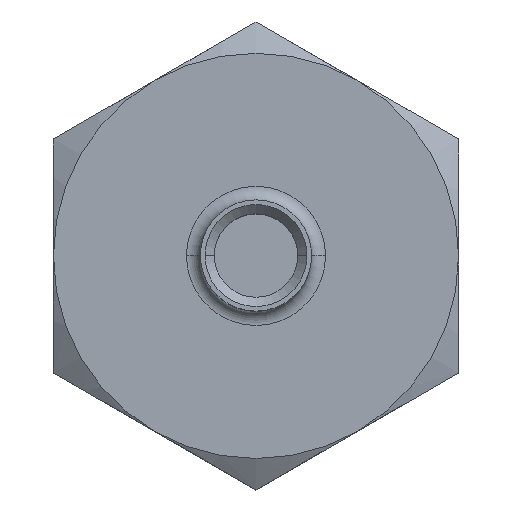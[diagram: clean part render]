
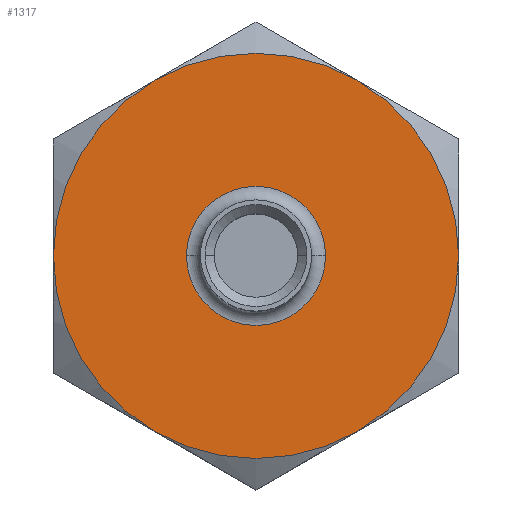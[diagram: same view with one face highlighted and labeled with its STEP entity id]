
A CAD part, top view. The second image highlights one B-rep face of the part: STEP entity #1317.
In plain terms, the highlighted planar face has unit normal (0, 0, 1).
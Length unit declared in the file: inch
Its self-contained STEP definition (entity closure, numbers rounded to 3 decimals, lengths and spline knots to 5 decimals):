
#34 = AXIS2_PLACEMENT_3D ( 'NONE', #1390, #1668, #258 ) ;
#45 = CIRCLE ( 'NONE', #1703, 0.2185 ) ;
#101 = CARTESIAN_POINT ( 'NONE',  ( 0., 0., -0.25 ) ) ;
#108 = DIRECTION ( 'NONE',  ( 1., 0., 0. ) ) ;
#174 = AXIS2_PLACEMENT_3D ( 'NONE', #101, #1860, #108 ) ;
#229 = CARTESIAN_POINT ( 'NONE',  ( -0.10925, 0.18923, -0.25 ) ) ;
#258 = DIRECTION ( 'NONE',  ( 1., 0., 0. ) ) ;
#271 = CARTESIAN_POINT ( 'NONE',  ( 0., 0., -0.25 ) ) ;
#297 = CARTESIAN_POINT ( 'NONE',  ( -0.2185, 0., -0.25 ) ) ;
#312 = AXIS2_PLACEMENT_3D ( 'NONE', #271, #2056, #2940 ) ;
#378 = ORIENTED_EDGE ( 'NONE', *, *, #410, .T. ) ;
#410 = EDGE_CURVE ( 'NONE', #896, #1927, #3319, .T. ) ;
#484 = FACE_BOUND ( 'NONE', #2782, .T. ) ;
#546 = ORIENTED_EDGE ( 'NONE', *, *, #1694, .F. ) ;
#654 = ORIENTED_EDGE ( 'NONE', *, *, #1463, .T. ) ;
#664 = EDGE_CURVE ( 'NONE', #1856, #3780, #3566, .T. ) ;
#709 = AXIS2_PLACEMENT_3D ( 'NONE', #2252, #2543, #1363 ) ;
#745 = EDGE_CURVE ( 'NONE', #3155, #1330, #45, .T. ) ;
#813 = DIRECTION ( 'NONE',  ( 1., 0., 0. ) ) ;
#819 = CIRCLE ( 'NONE', #1121, 0.2185 ) ;
#896 = VERTEX_POINT ( 'NONE', #1855 ) ;
#913 = AXIS2_PLACEMENT_3D ( 'NONE', #3217, #3501, #3184 ) ;
#940 = DIRECTION ( 'NONE',  ( 0., 0., 1. ) ) ;
#1029 = CIRCLE ( 'NONE', #312, 0.2185 ) ;
#1121 = AXIS2_PLACEMENT_3D ( 'NONE', #1457, #1206, #2652 ) ;
#1206 = DIRECTION ( 'NONE',  ( 0., 0., 1. ) ) ;
#1230 = AXIS2_PLACEMENT_3D ( 'NONE', #3353, #3092, #3081 ) ;
#1269 = AXIS2_PLACEMENT_3D ( 'NONE', #2195, #3122, #1618 ) ;
#1317 = ADVANCED_FACE ( 'NONE', ( #484, #2624 ), #2311, .F. ) ;
#1330 = VERTEX_POINT ( 'NONE', #3203 ) ;
#1363 = DIRECTION ( 'NONE',  ( 1., 0., 0. ) ) ;
#1382 = ORIENTED_EDGE ( 'NONE', *, *, #664, .F. ) ;
#1390 = CARTESIAN_POINT ( 'NONE',  ( 0., 0., -0.25 ) ) ;
#1405 = CIRCLE ( 'NONE', #709, 0.2185 ) ;
#1430 = CARTESIAN_POINT ( 'NONE',  ( 0.075, 0., -0.25 ) ) ;
#1457 = CARTESIAN_POINT ( 'NONE',  ( 0., 0., -0.25 ) ) ;
#1463 = EDGE_CURVE ( 'NONE', #1330, #896, #3238, .T. ) ;
#1602 = VERTEX_POINT ( 'NONE', #3085 ) ;
#1618 = DIRECTION ( 'NONE',  ( 1., 0., 0. ) ) ;
#1668 = DIRECTION ( 'NONE',  ( 0., 0., 1. ) ) ;
#1680 = CIRCLE ( 'NONE', #34, 0.075 ) ;
#1694 = EDGE_CURVE ( 'NONE', #3780, #1856, #1680, .T. ) ;
#1703 = AXIS2_PLACEMENT_3D ( 'NONE', #2719, #940, #813 ) ;
#1762 = CARTESIAN_POINT ( 'NONE',  ( -0.075, 0., -0.25 ) ) ;
#1792 = ORIENTED_EDGE ( 'NONE', *, *, #2344, .T. ) ;
#1814 = EDGE_CURVE ( 'NONE', #2033, #1602, #1029, .T. ) ;
#1837 = ORIENTED_EDGE ( 'NONE', *, *, #1814, .T. ) ;
#1855 = CARTESIAN_POINT ( 'NONE',  ( 0.10925, 0.18923, -0.25 ) ) ;
#1856 = VERTEX_POINT ( 'NONE', #1762 ) ;
#1860 = DIRECTION ( 'NONE',  ( 0., 0., 1. ) ) ;
#1927 = VERTEX_POINT ( 'NONE', #229 ) ;
#2033 = VERTEX_POINT ( 'NONE', #297 ) ;
#2056 = DIRECTION ( 'NONE',  ( 0., 0., 1. ) ) ;
#2195 = CARTESIAN_POINT ( 'NONE',  ( 0., 0., -0.25 ) ) ;
#2235 = CARTESIAN_POINT ( 'NONE',  ( 0.10925, -0.18923, -0.25 ) ) ;
#2252 = CARTESIAN_POINT ( 'NONE',  ( 0., 0., -0.25 ) ) ;
#2311 = PLANE ( 'NONE',  #913 ) ;
#2344 = EDGE_CURVE ( 'NONE', #1602, #3155, #1405, .T. ) ;
#2406 = EDGE_LOOP ( 'NONE', ( #3320, #1837, #1792, #3525, #654, #378 ) ) ;
#2543 = DIRECTION ( 'NONE',  ( 0., 0., 1. ) ) ;
#2624 = FACE_OUTER_BOUND ( 'NONE', #2406, .T. ) ;
#2652 = DIRECTION ( 'NONE',  ( 1., 0., 0. ) ) ;
#2719 = CARTESIAN_POINT ( 'NONE',  ( 0., 0., -0.25 ) ) ;
#2782 = EDGE_LOOP ( 'NONE', ( #546, #1382 ) ) ;
#2940 = DIRECTION ( 'NONE',  ( 1., 0., 0. ) ) ;
#3081 = DIRECTION ( 'NONE',  ( 1., 0., 0. ) ) ;
#3085 = CARTESIAN_POINT ( 'NONE',  ( -0.10925, -0.18923, -0.25 ) ) ;
#3092 = DIRECTION ( 'NONE',  ( 0., 0., 1. ) ) ;
#3122 = DIRECTION ( 'NONE',  ( 0., 0., 1. ) ) ;
#3155 = VERTEX_POINT ( 'NONE', #2235 ) ;
#3184 = DIRECTION ( 'NONE',  ( -1., 0., 0. ) ) ;
#3203 = CARTESIAN_POINT ( 'NONE',  ( 0.2185, 0., -0.25 ) ) ;
#3217 = CARTESIAN_POINT ( 'NONE',  ( 0., 0.075, -0.25 ) ) ;
#3238 = CIRCLE ( 'NONE', #174, 0.2185 ) ;
#3319 = CIRCLE ( 'NONE', #1269, 0.2185 ) ;
#3320 = ORIENTED_EDGE ( 'NONE', *, *, #3360, .T. ) ;
#3353 = CARTESIAN_POINT ( 'NONE',  ( 0., 0., -0.25 ) ) ;
#3360 = EDGE_CURVE ( 'NONE', #1927, #2033, #819, .T. ) ;
#3501 = DIRECTION ( 'NONE',  ( 0., 0., -1. ) ) ;
#3525 = ORIENTED_EDGE ( 'NONE', *, *, #745, .T. ) ;
#3566 = CIRCLE ( 'NONE', #1230, 0.075 ) ;
#3780 = VERTEX_POINT ( 'NONE', #1430 ) ;
